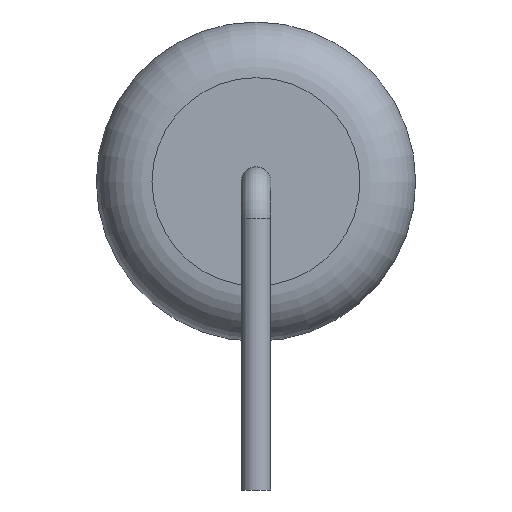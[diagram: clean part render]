
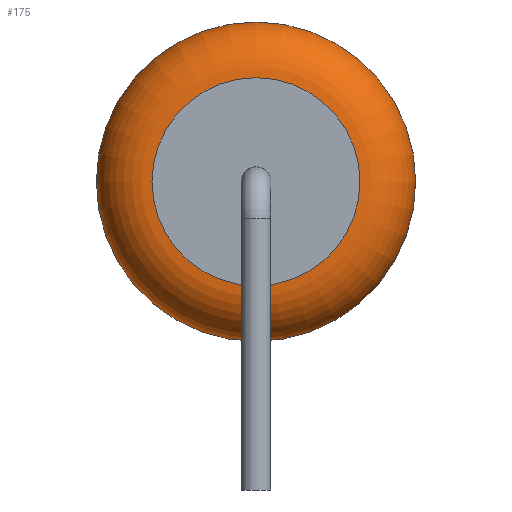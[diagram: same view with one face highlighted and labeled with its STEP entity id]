
A CAD part, left-side view. The second image highlights one B-rep face of the part: STEP entity #175.
In plain terms, the highlighted toroidal (fillet/blend) face has major radius 2.8 mm and minor radius 1.5 mm.
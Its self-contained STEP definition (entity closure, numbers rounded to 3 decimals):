
#175=ADVANCED_FACE('',(#344,#346),#348,.T.);
#344=FACE_OUTER_BOUND('',#345,.T.);
#345=EDGE_LOOP('',(#421));
#346=FACE_OUTER_BOUND('',#347,.T.);
#347=EDGE_LOOP('',(#422));
#348=TOROIDAL_SURFACE('',#349,2.8,1.5);
#349=AXIS2_PLACEMENT_3D('',#350,#351,#352);
#350=CARTESIAN_POINT('',(-12.,0.,0.));
#351=DIRECTION('',(-1.,0.,0.));
#352=DIRECTION('',(0.,0.,1.));
#421=ORIENTED_EDGE('',*,*,#444,.T.);
#422=ORIENTED_EDGE('',*,*,#445,.F.);
#444=EDGE_CURVE('',#474,#474,#475,.T.);
#445=EDGE_CURVE('',#476,#476,#477,.T.);
#474=VERTEX_POINT('',#546);
#475=CIRCLE('',#547,4.3);
#476=VERTEX_POINT('',#551);
#477=CIRCLE('',#552,2.8);
#546=CARTESIAN_POINT('',(-12.,0.,4.3));
#547=AXIS2_PLACEMENT_3D('',#548,#549,#550);
#548=CARTESIAN_POINT('',(-12.,0.,0.));
#549=DIRECTION('',(-1.,0.,0.));
#550=DIRECTION('',(0.,0.,1.));
#551=CARTESIAN_POINT('',(-13.5,0.,2.8));
#552=AXIS2_PLACEMENT_3D('',#553,#554,#555);
#553=CARTESIAN_POINT('',(-13.5,0.,0.));
#554=DIRECTION('',(-1.,0.,0.));
#555=DIRECTION('',(0.,0.,1.));
